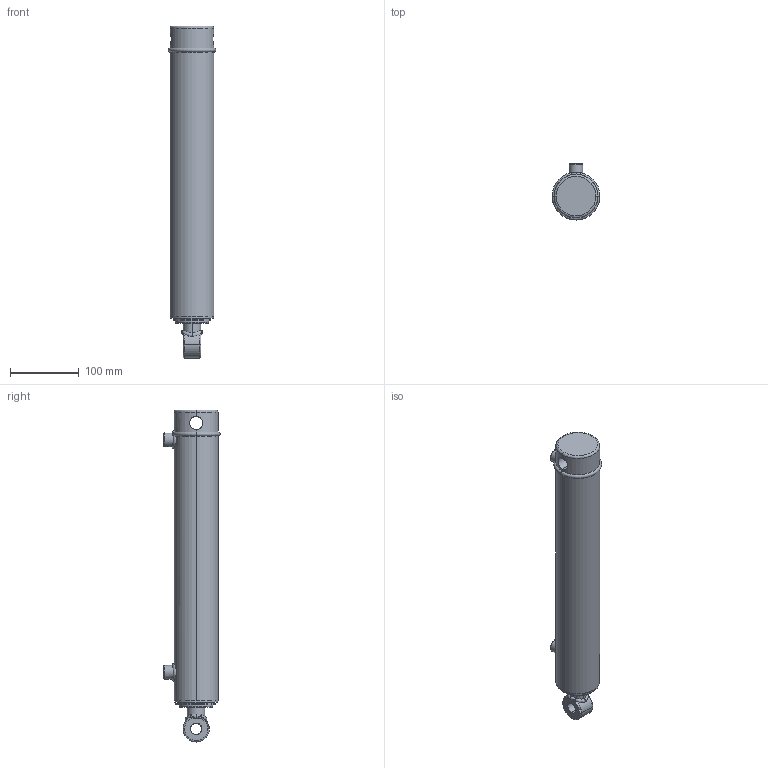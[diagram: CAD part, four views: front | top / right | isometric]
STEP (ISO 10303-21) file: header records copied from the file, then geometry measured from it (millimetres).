
FILE_DESCRIPTION (( 'STEP AP203' ), '1' );
FILE_NAME ('SB-C200100X305 (12).STEP', '2014-12-01T23:45:37', ( '' ), ( '' ), 'SwSTEP 2.0', 'SolidWorks 2014', '' );
FILE_SCHEMA (( 'CONFIG_CONTROL_DESIGN' ));
Length unit declared in the file: millimetre
Products named in the file (5): SB-C200100X305 (12) BODY; 2 inch circlip; SB-C2 12 SPARE; SB-C200100X305 (12)
Assembly tree (4 placements, depth 3):
  SB-C200100X305 (12)
    SB-C200100X305 (12) BODY
    2 inch circlip
    SB-C2 12 SPARE
      SB-C2 12 SPARE
Bounding box: 69.5 x 81.5 x 482 mm (x, y, z)
Volume: 1445504.8 mm3; surface area: 159506.6 mm2
Topology: 3 solids, 3 shells, 130 faces, 324 edges, 203 vertices
Faces by surface type: cylinder 51, bspline 25, plane 25, torus 21, cone 8
Entity records: 9343 total; most frequent: CARTESIAN_POINT 5899, ORIENTED_EDGE 640, DIRECTION 595, EDGE_CURVE 320, AXIS2_PLACEMENT_3D 263, VERTEX_POINT 203, CIRCLE 150, EDGE_LOOP 149
